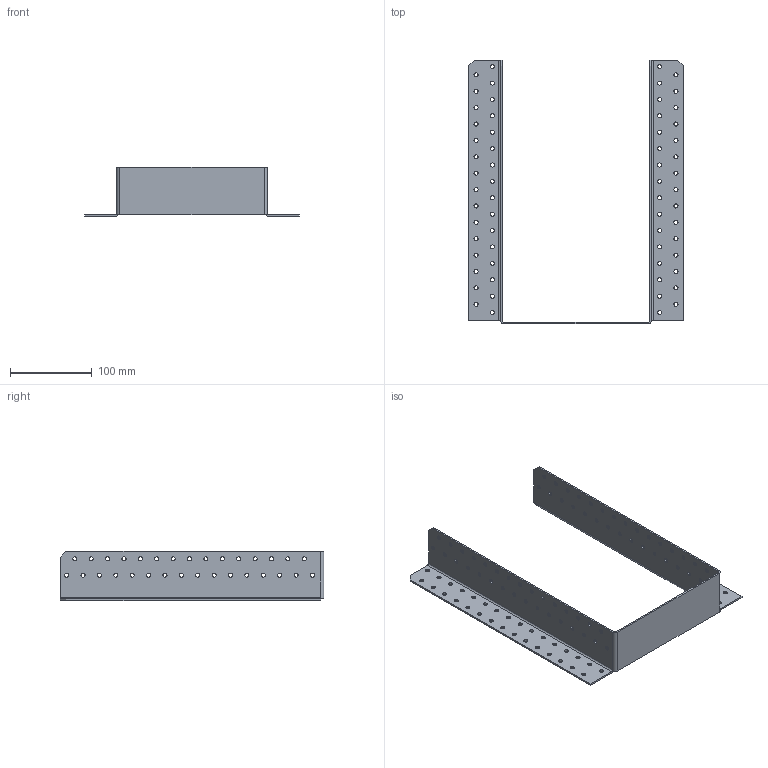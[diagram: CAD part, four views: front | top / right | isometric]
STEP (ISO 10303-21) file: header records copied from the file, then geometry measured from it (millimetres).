
FILE_DESCRIPTION (( 'STEP AP203' ), '1' );
FILE_NAME ('405552.STEP', '2021-04-17T17:54:47', ( '' ), ( '' ), 'SwSTEP 2.0', 'SolidWorks 2013', '' );
FILE_SCHEMA (( 'CONFIG_CONTROL_DESIGN' ));
Length unit declared in the file: millimetre
Products named in the file (1): 405552
Bounding box: 262 x 322 x 60 mm (x, y, z)
Volume: 140734 mm3; surface area: 148433.5 mm2
Topology: 1 solids, 1 shells, 292 faces, 840 edges, 550 vertices
Faces by surface type: cylinder 256, plane 36
Entity records: 10411 total; most frequent: DIRECTION 1940, CARTESIAN_POINT 1683, ORIENTED_EDGE 1680, EDGE_CURVE 840, AXIS2_PLACEMENT_3D 807, VERTEX_POINT 550, EDGE_LOOP 540, CIRCLE 514
